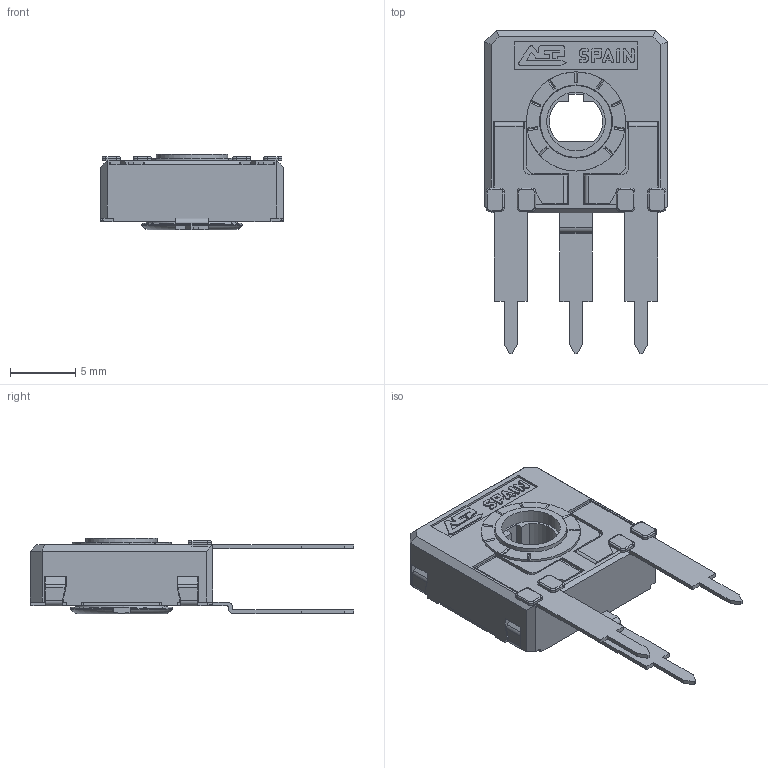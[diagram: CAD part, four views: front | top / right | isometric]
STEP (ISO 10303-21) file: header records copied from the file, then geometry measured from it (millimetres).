
FILE_DESCRIPTION(/* description */ (''),/* implementation_level */ '2;1');
FILE_NAME(/* name */ '\\SERVERACP\intercambio\Ignacio Santa Cecilia\Nueva WEB 2025\CA14 - CE14\CA14THL5.stp',/* time_stamp */ '2025-06-13T11:26:08+02:00',/* author */ ('CEM'),/* organization */ (''),/* preprocessor_version */ 'ST-DEVELOPER v17',/* originating_system */ 'Autodesk Inventor 2018',/* authorisation */ '');
FILE_SCHEMA (('AUTOMOTIVE_DESIGN { 1 0 10303 214 3 1 1 }'));
Length unit declared in the file: millimetre
Products named in the file (1): CARCASA CA14 PGA
Bounding box: 14 x 24.8 x 5.8 mm (x, y, z)
Volume: 535.6 mm3; surface area: 1516.2 mm2
Topology: 1 solids, 1 shells, 667 faces, 1881 edges, 1211 vertices
Faces by surface type: plane 495, cylinder 135, torus 23, bspline 8, cone 6
Full cylindrical faces by diameter (mm): 4.5 x1, 5.5 x1, 5.6 x1, 5.752 x1, 6.8 x1, 7.6 x1
Entity records: 21754 total; most frequent: CARTESIAN_POINT 4057, ORIENTED_EDGE 3762, DIRECTION 3507, EDGE_CURVE 1881, LINE 1485, VECTOR 1485, VERTEX_POINT 1211, AXIS2_PLACEMENT_3D 1011
